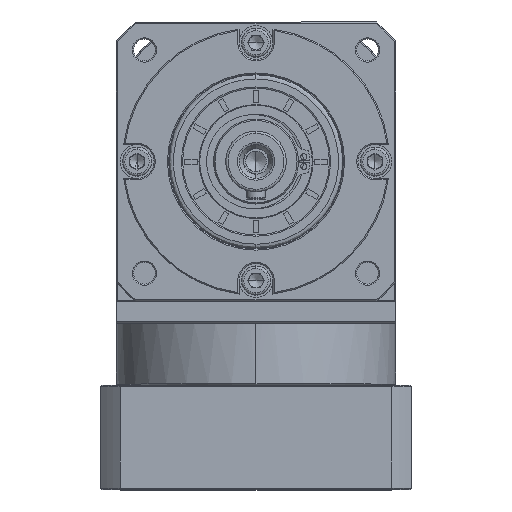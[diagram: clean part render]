
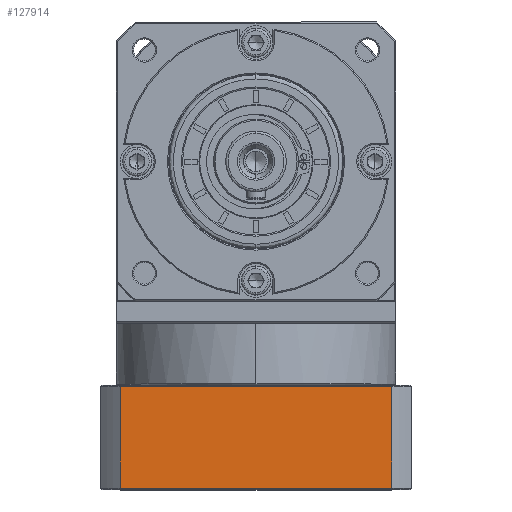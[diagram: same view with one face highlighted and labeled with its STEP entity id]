
A CAD part, top view. The second image highlights one B-rep face of the part: STEP entity #127914.
In plain terms, the highlighted planar face has unit normal (0, 0, 1).
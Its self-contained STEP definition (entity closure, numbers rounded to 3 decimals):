
#1225 = VERTEX_POINT ( 'NONE', #148985 ) ;
#2839 = ORIENTED_EDGE ( 'NONE', *, *, #85610, .F. ) ;
#3533 = CARTESIAN_POINT ( 'NONE',  ( -133.572, 118.064, 97.075 ) ) ;
#8971 = CARTESIAN_POINT ( 'NONE',  ( -253.509, -177.35, 97.075 ) ) ;
#15165 = DIRECTION ( 'NONE',  ( -1., 0., 0. ) ) ;
#15197 = VECTOR ( 'NONE', #93460, 1000. ) ;
#21867 = PLANE ( 'NONE',  #41682 ) ;
#22444 = DIRECTION ( 'NONE',  ( -1., 0., 0. ) ) ;
#34638 = LINE ( 'NONE', #53800, #168746 ) ;
#41682 = AXIS2_PLACEMENT_3D ( 'NONE', #8971, #102816, #22444 ) ;
#53800 = CARTESIAN_POINT ( 'NONE',  ( -253.509, -176.85, 97.075 ) ) ;
#55428 = FACE_OUTER_BOUND ( 'NONE', #135060, .T. ) ;
#61716 = CARTESIAN_POINT ( 'NONE',  ( -245.447, -134.85, 97.075 ) ) ;
#70766 = ORIENTED_EDGE ( 'NONE', *, *, #155640, .F. ) ;
#85610 = EDGE_CURVE ( 'NONE', #106037, #125494, #117867, .T. ) ;
#88501 = EDGE_CURVE ( 'NONE', #169013, #1225, #34638, .T. ) ;
#91344 = LINE ( 'NONE', #3533, #158396 ) ;
#93460 = DIRECTION ( 'NONE',  ( 1., 0., 0. ) ) ;
#101946 = CARTESIAN_POINT ( 'NONE',  ( -245.447, -177.35, 97.075 ) ) ;
#102816 = DIRECTION ( 'NONE',  ( 0., 0., -1. ) ) ;
#104069 = VECTOR ( 'NONE', #141205, 1000. ) ;
#106037 = VERTEX_POINT ( 'NONE', #61716 ) ;
#114505 = ORIENTED_EDGE ( 'NONE', *, *, #88501, .F. ) ;
#117867 = LINE ( 'NONE', #173670, #15197 ) ;
#124821 = DIRECTION ( 'NONE',  ( 0., -1., 0. ) ) ;
#125494 = VERTEX_POINT ( 'NONE', #133924 ) ;
#127914 = ADVANCED_FACE ( 'NONE', ( #55428 ), #21867, .F. ) ;
#130628 = CARTESIAN_POINT ( 'NONE',  ( -133.572, -176.85, 97.075 ) ) ;
#133924 = CARTESIAN_POINT ( 'NONE',  ( -133.572, -134.85, 97.075 ) ) ;
#135060 = EDGE_LOOP ( 'NONE', ( #70766, #2839, #152563, #114505 ) ) ;
#141205 = DIRECTION ( 'NONE',  ( 0., 1., 0. ) ) ;
#148090 = LINE ( 'NONE', #101946, #104069 ) ;
#148985 = CARTESIAN_POINT ( 'NONE',  ( -245.447, -176.85, 97.075 ) ) ;
#152563 = ORIENTED_EDGE ( 'NONE', *, *, #163318, .F. ) ;
#155640 = EDGE_CURVE ( 'NONE', #125494, #169013, #91344, .T. ) ;
#158396 = VECTOR ( 'NONE', #124821, 1000. ) ;
#163318 = EDGE_CURVE ( 'NONE', #1225, #106037, #148090, .T. ) ;
#168746 = VECTOR ( 'NONE', #15165, 1000. ) ;
#169013 = VERTEX_POINT ( 'NONE', #130628 ) ;
#173670 = CARTESIAN_POINT ( 'NONE',  ( -253.509, -134.85, 97.075 ) ) ;
